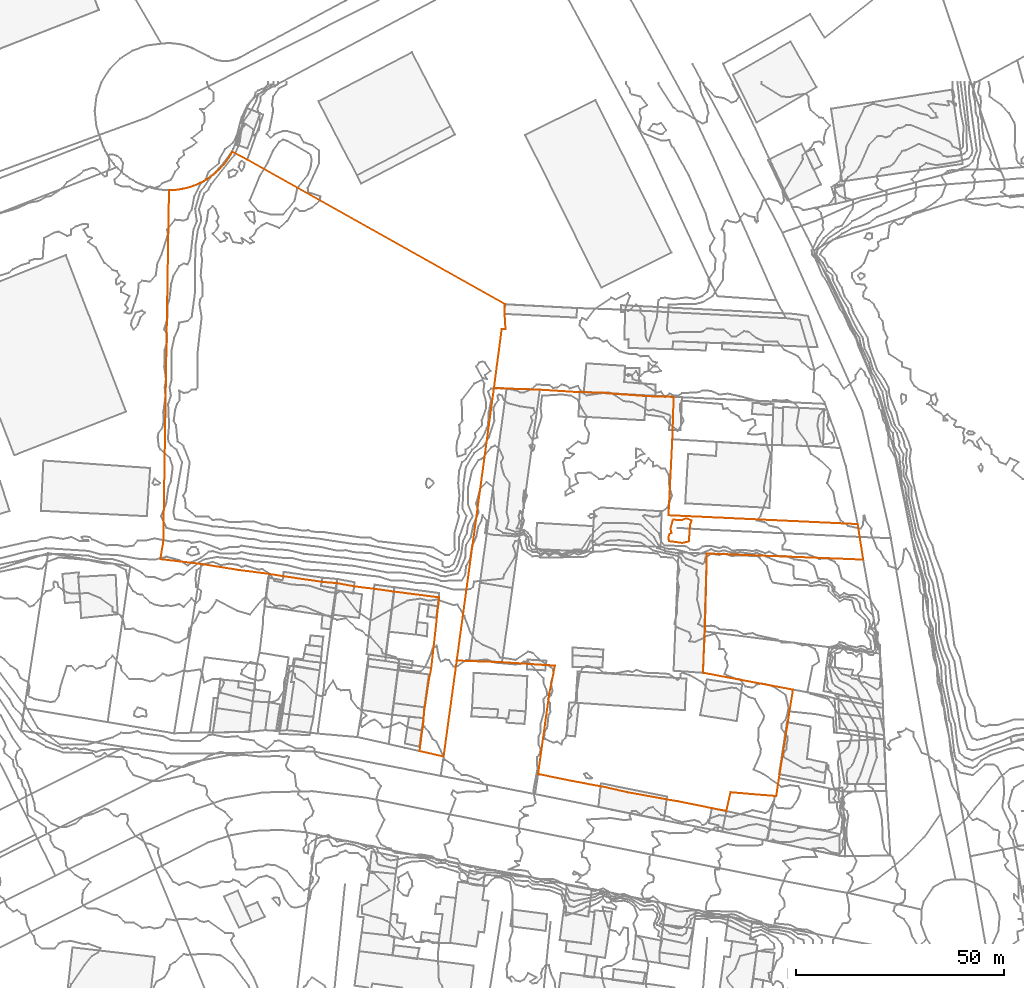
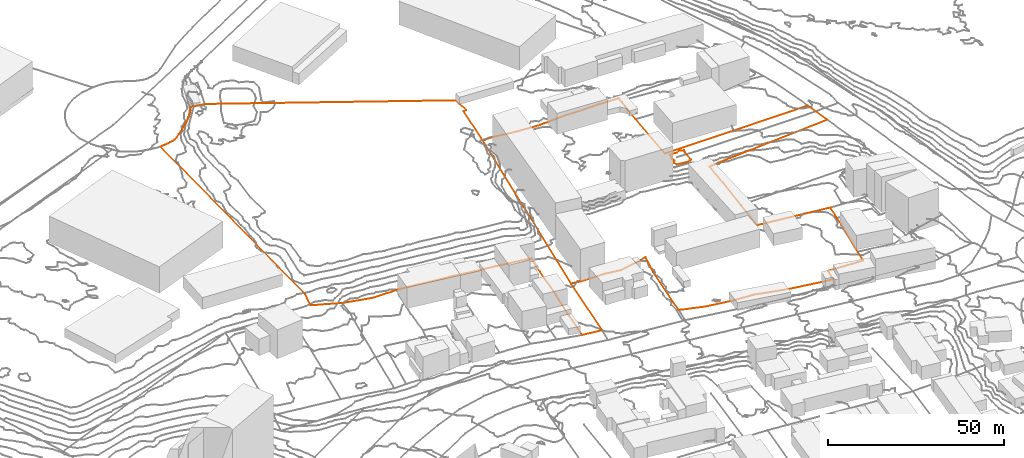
# Not in any storey, part 331 of 419: 3 proxies.
"""IFC2X3 model written with IfcOpenShell, lengths in metres."""

from ifc_helpers import new_model, entity, si_unit, frame, origin_with_axes, place, context, subcontext, project, element, save


model = new_model("IFC2X3")

# Units and contexts
model_context = context("Model", 3, precision=1e-05, world=origin_with_axes())
body_context = subcontext(model_context, "Body", "Model", "MODEL_VIEW")
ifc_project = project(units=[si_unit("AREAUNIT", "SQUARE_METRE"), si_unit("LENGTHUNIT", "METRE")], contexts=[model_context])

# Proxies
proxy_1_placement = place(None, frame((516.8920204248, 893.1576909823, 43.0689203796), z_axis=(0.0, 0.0, 1.0), x_axis=(1.0, 0.0, 0.0)))
element("IfcBuildingElementProxy", 1, at=proxy_1_placement, Name="Cadastre 274", ObjectType="NOTDEFINED", context=body_context, shape_type="GeometricCurveSet", body=[
    entity("IfcGeometricCurveSet", [entity("IfcPolyline", [entity("IfcCartesianPoint", [8.95, 65.5800000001, 6.6279800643]), entity("IfcCartesianPoint", [12.02, 65.4800000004, 6.8435906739]), entity("IfcCartesianPoint", [20.0, 65.2000000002, 6.1711195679]), entity("IfcCartesianPoint", [27.4399999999, 64.7400000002, 6.1781802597]), entity("IfcCartesianPoint", [28.63, 64.6500000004, 6.3266613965]), entity("IfcCartesianPoint", [35.38, 64.46, 6.8504803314]), entity("IfcCartesianPoint", [38.0399999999, 64.2000000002, 6.9428793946]), entity("IfcCartesianPoint", [43.58, 63.8100000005, 7.2747791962]), entity("IfcCartesianPoint", [45.75, 63.6400000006, 7.4952805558]), entity("IfcCartesianPoint", [52.22, 63.4700000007, 7.4051067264]), entity("IfcCartesianPoint", [52.15, 61.5100000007, 7.2370549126]), entity("IfcCartesianPoint", [52.1, 59.5600000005, 7.0694003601]), entity("IfcCartesianPoint", [51.89, 53.2600000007, 6.4990504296]), entity("IfcCartesianPoint", [50.98, 34.9800000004, 6.000943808]), entity("IfcCartesianPoint", [96.5399999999, 32.8500000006, 7.9500828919]), entity("IfcCartesianPoint", [97.85, 24.3000000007, 7.7799801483]), entity("IfcCartesianPoint", [60.1899999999, 25.7800000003, 3.9039111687]), entity("IfcCartesianPoint", [60.01, 17.6400000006, 3.1904798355]), entity("IfcCartesianPoint", [59.72, 7.0, 2.0993690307]), entity("IfcCartesianPoint", [59.25, -2.9399999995, 1.264120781]), entity("IfcCartesianPoint", [80.9299999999, -7.0099999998, 2.2694051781]), entity("IfcCartesianPoint", [80.09, -12.2699999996, 2.0965670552]), entity("IfcCartesianPoint", [79.52, -15.8599999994, 2.1496396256]), entity("IfcCartesianPoint", [77.5499999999, -28.3399999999, 1.0369689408]), entity("IfcCartesianPoint", [76.9099999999, -32.6299999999, 0.8248522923]), entity("IfcCartesianPoint", [76.61, -32.5999999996, 0.8146669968]), entity("IfcCartesianPoint", [65.89, -31.71, 0.5585851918]), entity("IfcCartesianPoint", [64.89, -36.2199999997, 0.7209533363]), entity("IfcCartesianPoint", [61.39, -35.5299999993, 0.5371510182]), entity("IfcCartesianPoint", [53.14, -33.8700000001, 0.3340117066]), entity("IfcCartesianPoint", [49.0, -33.1499999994, 0.4655505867]), entity("IfcCartesianPoint", [41.23, -31.7299999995, 0.8711515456]), entity("IfcCartesianPoint", [38.4199999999, -31.0999999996, 0.4654944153]), entity("IfcCartesianPoint", [35.58, -30.4499999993, 0.1579556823]), entity("IfcCartesianPoint", [27.38, -28.9199999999, -0.0198323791]), entity("IfcCartesianPoint", [20.02, -27.3999999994, 0.5024398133]), entity("IfcCartesianPoint", [19.5699999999, -27.2999999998, 0.4247759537]), entity("IfcCartesianPoint", [22.26, -8.0800000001, 1.0926470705]), entity("IfcCartesianPoint", [23.62, -1.2199999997, 1.6709276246]), entity("IfcCartesianPoint", [20.63, -1.0299999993, 0.6589807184]), entity("IfcCartesianPoint", [16.02, -0.7299999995, -0.4785678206]), entity("IfcCartesianPoint", [10.9399999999, -0.3999999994, -0.2000084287]), entity("IfcCartesianPoint", [3.0, -0.1099999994, -0.2539705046]), entity("IfcCartesianPoint", [0.0, 0.0, 0.0]), entity("IfcCartesianPoint", [8.95, 65.5800000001, 6.6279800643])])]),
])
proxy_2_placement = place(None, frame((445.5520204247, 917.5576909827, 45.6963513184), z_axis=(0.0, 0.0, 1.0), x_axis=(1.0, 0.0, 0.0)))
element("IfcBuildingElementProxy", 2, at=proxy_2_placement, Name="Cadastre 279", ObjectType="NOTDEFINED", context=body_context, shape_type="GeometricCurveSet", body=[
    entity("IfcGeometricCurveSet", [entity("IfcPolyline", [entity("IfcCartesianPoint", [62.38, -46.2000000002, -4.0839580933]), entity("IfcCartesianPoint", [63.29, -39.2700000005, -3.6554506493]), entity("IfcCartesianPoint", [63.4900000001, -36.7000000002, -3.4859607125]), entity("IfcCartesianPoint", [64.6800000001, -28.7700000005, -3.1171627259]), entity("IfcCartesianPoint", [65.2000000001, -26.2000000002, -3.0512142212]), entity("IfcCartesianPoint", [66.4400000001, -15.1299999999, -2.3911519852]), entity("IfcCartesianPoint", [66.7200000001, -12.4100000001, -2.2458520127]), entity("IfcCartesianPoint", [67.14, -9.21, -1.6203995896]), entity("IfcCartesianPoint", [56.3, -7.8099999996, -1.4095313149]), entity("IfcCartesianPoint", [51.5600000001, -7.1500000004, -1.4722509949]), entity("IfcCartesianPoint", [49.9800000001, -6.96, -1.4574698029]), entity("IfcCartesianPoint", [46.7200000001, -6.54, -1.3423835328]), entity("IfcCartesianPoint", [42.4900000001, -5.7800000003, -1.445901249]), entity("IfcCartesianPoint", [38.9900000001, -5.4699999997, -1.4086061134]), entity("IfcCartesianPoint", [29.63, -4.1100000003, -1.5102421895]), entity("IfcCartesianPoint", [26.2300000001, -3.5599999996, -1.6994122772]), entity("IfcCartesianPoint", [18.67, -2.5800000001, -2.4311904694]), entity("IfcCartesianPoint", [9.8400000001, -1.1500000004, -1.9172712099]), entity("IfcCartesianPoint", [0.0, 0.0, 0.0]), entity("IfcCartesianPoint", [0.7000000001, 4.1799999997, 1.1713810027]), entity("IfcCartesianPoint", [2.0800000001, 88.8200000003, 0.4854649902]), entity("IfcCartesianPoint", [2.7400000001, 88.8399999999, 0.4976493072]), entity("IfcCartesianPoint", [3.64, 88.9000000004, 0.4849278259]), entity("IfcCartesianPoint", [4.54, 89.0300000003, 0.4948482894]), entity("IfcCartesianPoint", [5.4300000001, 89.1799999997, 0.5113753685]), entity("IfcCartesianPoint", [6.3200000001, 89.3799999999, 0.5157924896]), entity("IfcCartesianPoint", [7.1900000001, 89.6299999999, 0.5575486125]), entity("IfcCartesianPoint", [8.05, 89.9299999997, 0.8182341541]), entity("IfcCartesianPoint", [8.89, 90.2699999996, 1.4174236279]), entity("IfcCartesianPoint", [9.7100000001, 90.6500000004, 1.7878397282]), entity("IfcCartesianPoint", [10.51, 91.0800000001, 2.1459796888]), entity("IfcCartesianPoint", [11.0700000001, 91.4199999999, 2.4421979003]), entity("IfcCartesianPoint", [11.29, 91.5599999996, 2.5186477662]), entity("IfcCartesianPoint", [12.04, 92.0599999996, 2.8726474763]), entity("IfcCartesianPoint", [12.77, 92.6100000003, 2.9969792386]), entity("IfcCartesianPoint", [13.4600000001, 93.1900000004, 3.0728981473]), entity("IfcCartesianPoint", [14.1200000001, 93.8200000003, 3.2245592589]), entity("IfcCartesianPoint", [14.75, 94.4699999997, 3.3668511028]), entity("IfcCartesianPoint", [15.3500000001, 95.1600000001, 3.4041479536]), entity("IfcCartesianPoint", [15.91, 95.8700000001, 3.4247926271]), entity("IfcCartesianPoint", [16.42, 96.6100000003, 3.2893940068]), entity("IfcCartesianPoint", [16.91, 97.4000000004, 3.2170212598]), entity("IfcCartesianPoint", [17.3, 98.0999999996, 3.1450257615]), entity("IfcCartesianPoint", [20.9, 96.1900000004, 4.1170996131]), entity("IfcCartesianPoint", [82.91, 61.3799999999, 4.7839463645]), entity("IfcCartesianPoint", [82.8600000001, 59.0, 4.8877367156]), entity("IfcCartesianPoint", [83.0900000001, 55.46, 4.9779476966]), entity("IfcCartesianPoint", [82.16, 55.4299999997, 4.9581242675]), entity("IfcCartesianPoint", [80.29, 41.1799999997, 4.0005491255]), entity("IfcCartesianPoint", [71.3400000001, -24.4000000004, -2.6274309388]), entity("IfcCartesianPoint", [68.1800000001, -47.5099999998, -3.6749710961]), entity("IfcCartesianPoint", [62.38, -46.2000000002, -4.0839580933])])]),
])
proxy_3_placement = place(None, frame((567.8420283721, 922.8976909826, 49.0), z_axis=(0.0, 0.0, 1.0), x_axis=(1.0, 0.0, 0.0)))
element("IfcBuildingElementProxy", 3, at=proxy_3_placement, Name="Contour 49.0 m", ObjectType="NOTDEFINED", context=body_context, shape_type="GeometricCurveSet", body=[
    entity("IfcGeometricCurveSet", [entity("IfcPolyline", [entity("IfcCartesianPoint", [4.2499920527, -1.25, 0.0]), entity("IfcCartesianPoint", [4.9167011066, -1.0, 0.0]), entity("IfcCartesianPoint", [5.2499753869, 3.0, 0.0]), entity("IfcCartesianPoint", [5.583325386, 4.0, 0.0]), entity("IfcCartesianPoint", [4.2499920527, 4.4999875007, 0.0]), entity("IfcCartesianPoint", [3.2499920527, 4.1110922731, 0.0]), entity("IfcCartesianPoint", [1.2499920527, 4.1538484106, 0.0]), entity("IfcCartesianPoint", [0.9999920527, 4.0, 0.0]), entity("IfcCartesianPoint", [0.4999682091, 2.0, 0.0]), entity("IfcCartesianPoint", [0.7500420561, 1.0, 0.0]), entity("IfcCartesianPoint", [0.2499920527, 0.7500238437, 0.0]), entity("IfcCartesianPoint", [0.0, 0.0, 0.0]), entity("IfcCartesianPoint", [0.1500073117, -1.0, 0.0]), entity("IfcCartesianPoint", [3.2499920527, -1.4285558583, 0.0]), entity("IfcCartesianPoint", [4.2499920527, -1.25, 0.0])])]),
])

save(model, "model.ifc")
